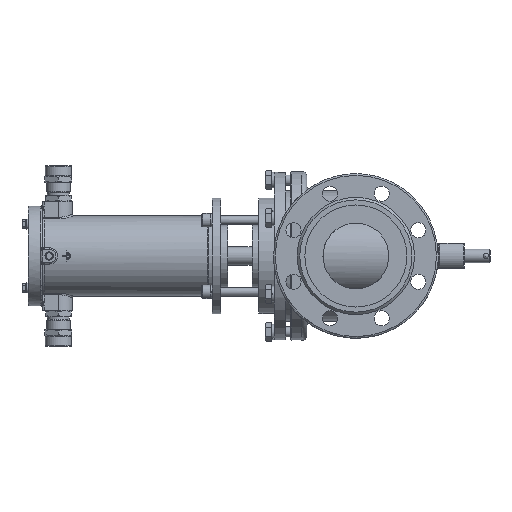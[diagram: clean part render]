
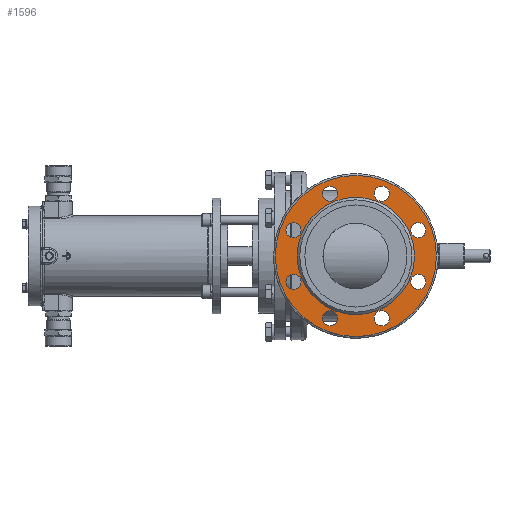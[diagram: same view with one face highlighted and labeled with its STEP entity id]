
A CAD part, left-side view. The second image highlights one B-rep face of the part: STEP entity #1596.
In plain terms, the highlighted planar face has unit normal (-1, 0, 0).
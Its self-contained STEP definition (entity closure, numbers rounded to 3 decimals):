
#1596=ADVANCED_FACE('',(#19556,#19558,#19560,#19562,#19564,#19566,#19568,#19570,
#19572,#19574),#19576,.T.);
#19556=FACE_BOUND('',#19557,.T.);
#19557=EDGE_LOOP('',(#31878));
#19558=FACE_BOUND('',#19559,.T.);
#19559=EDGE_LOOP('',(#31879));
#19560=FACE_BOUND('',#19561,.T.);
#19561=EDGE_LOOP('',(#31880));
#19562=FACE_BOUND('',#19563,.T.);
#19563=EDGE_LOOP('',(#31881));
#19564=FACE_BOUND('',#19565,.T.);
#19565=EDGE_LOOP('',(#31882));
#19566=FACE_BOUND('',#19567,.T.);
#19567=EDGE_LOOP('',(#31883));
#19568=FACE_BOUND('',#19569,.T.);
#19569=EDGE_LOOP('',(#31884));
#19570=FACE_BOUND('',#19571,.T.);
#19571=EDGE_LOOP('',(#31885));
#19572=FACE_BOUND('',#19573,.T.);
#19573=EDGE_LOOP('',(#31886));
#19574=FACE_OUTER_BOUND('',#19575,.T.);
#19575=EDGE_LOOP('',(#31887));
#19576=PLANE('',#19577);
#19577=AXIS2_PLACEMENT_3D('',#19578,#19579,#19580);
#19578=CARTESIAN_POINT('',(-151.,0.,0.));
#19579=DIRECTION('',(-1.,0.,0.));
#19580=DIRECTION('',(0.,1.,0.));
#31878=ORIENTED_EDGE('',*,*,#40691,.T.);
#31879=ORIENTED_EDGE('',*,*,#40689,.T.);
#31880=ORIENTED_EDGE('',*,*,#40687,.T.);
#31881=ORIENTED_EDGE('',*,*,#40685,.T.);
#31882=ORIENTED_EDGE('',*,*,#40683,.T.);
#31883=ORIENTED_EDGE('',*,*,#40681,.T.);
#31884=ORIENTED_EDGE('',*,*,#40679,.T.);
#31885=ORIENTED_EDGE('',*,*,#40677,.T.);
#31886=ORIENTED_EDGE('',*,*,#40954,.F.);
#31887=ORIENTED_EDGE('',*,*,#40955,.T.);
#40677=EDGE_CURVE('',#48530,#48530,#48532,.T.);
#40679=EDGE_CURVE('',#48533,#48533,#48535,.T.);
#40681=EDGE_CURVE('',#48536,#48536,#48538,.T.);
#40683=EDGE_CURVE('',#48539,#48539,#48541,.T.);
#40685=EDGE_CURVE('',#48542,#48542,#48544,.T.);
#40687=EDGE_CURVE('',#48545,#48545,#48547,.T.);
#40689=EDGE_CURVE('',#48548,#48548,#48550,.T.);
#40691=EDGE_CURVE('',#48551,#48551,#48553,.T.);
#40954=EDGE_CURVE('',#49068,#49068,#49069,.T.);
#40955=EDGE_CURVE('',#49070,#49070,#49071,.T.);
#48530=VERTEX_POINT('',#74925);
#48532=CIRCLE('',#74929,9.);
#48533=VERTEX_POINT('',#74933);
#48535=CIRCLE('',#74937,9.);
#48536=VERTEX_POINT('',#74941);
#48538=CIRCLE('',#74945,9.);
#48539=VERTEX_POINT('',#74949);
#48541=CIRCLE('',#74953,9.);
#48542=VERTEX_POINT('',#74957);
#48544=CIRCLE('',#74961,9.);
#48545=VERTEX_POINT('',#74965);
#48547=CIRCLE('',#74969,9.);
#48548=VERTEX_POINT('',#74973);
#48550=CIRCLE('',#74977,9.);
#48551=VERTEX_POINT('',#74981);
#48553=CIRCLE('',#74985,9.);
#49068=VERTEX_POINT('',#76416);
#49069=CIRCLE('',#76417,69.5);
#49070=VERTEX_POINT('',#76421);
#49071=CIRCLE('',#76422,95.5);
#74925=CARTESIAN_POINT('',(-151.,30.615,64.91));
#74929=AXIS2_PLACEMENT_3D('',#74930,#74931,#74932);
#74930=CARTESIAN_POINT('',(-151.,30.615,73.91));
#74931=DIRECTION('',(1.,0.,0.));
#74932=DIRECTION('',(0.,-1.,0.));
#74933=CARTESIAN_POINT('',(-151.,30.615,-82.91));
#74937=AXIS2_PLACEMENT_3D('',#74938,#74939,#74940);
#74938=CARTESIAN_POINT('',(-151.,30.615,-73.91));
#74939=DIRECTION('',(1.,0.,0.));
#74940=DIRECTION('',(0.,-1.,0.));
#74941=CARTESIAN_POINT('',(-151.,73.91,21.615));
#74945=AXIS2_PLACEMENT_3D('',#74946,#74947,#74948);
#74946=CARTESIAN_POINT('',(-151.,73.91,30.615));
#74947=DIRECTION('',(1.,0.,0.));
#74948=DIRECTION('',(0.,-1.,0.));
#74949=CARTESIAN_POINT('',(-151.,-30.615,-82.91));
#74953=AXIS2_PLACEMENT_3D('',#74954,#74955,#74956);
#74954=CARTESIAN_POINT('',(-151.,-30.615,-73.91));
#74955=DIRECTION('',(1.,0.,0.));
#74956=DIRECTION('',(0.,-1.,0.));
#74957=CARTESIAN_POINT('',(-151.,-73.91,21.615));
#74961=AXIS2_PLACEMENT_3D('',#74962,#74963,#74964);
#74962=CARTESIAN_POINT('',(-151.,-73.91,30.615));
#74963=DIRECTION('',(1.,0.,0.));
#74964=DIRECTION('',(0.,-1.,0.));
#74965=CARTESIAN_POINT('',(-151.,-30.615,64.91));
#74969=AXIS2_PLACEMENT_3D('',#74970,#74971,#74972);
#74970=CARTESIAN_POINT('',(-151.,-30.615,73.91));
#74971=DIRECTION('',(1.,0.,0.));
#74972=DIRECTION('',(0.,-1.,0.));
#74973=CARTESIAN_POINT('',(-151.,73.91,-39.615));
#74977=AXIS2_PLACEMENT_3D('',#74978,#74979,#74980);
#74978=CARTESIAN_POINT('',(-151.,73.91,-30.615));
#74979=DIRECTION('',(1.,0.,0.));
#74980=DIRECTION('',(0.,-1.,0.));
#74981=CARTESIAN_POINT('',(-151.,-73.91,-39.615));
#74985=AXIS2_PLACEMENT_3D('',#74986,#74987,#74988);
#74986=CARTESIAN_POINT('',(-151.,-73.91,-30.615));
#74987=DIRECTION('',(1.,0.,0.));
#74988=DIRECTION('',(0.,-1.,0.));
#76416=CARTESIAN_POINT('',(-151.,-69.5,0.));
#76417=AXIS2_PLACEMENT_3D('',#76418,#76419,#76420);
#76418=CARTESIAN_POINT('',(-151.,0.,0.));
#76419=DIRECTION('',(-1.,0.,0.));
#76420=DIRECTION('',(0.,1.,0.));
#76421=CARTESIAN_POINT('',(-151.,-95.5,0.));
#76422=AXIS2_PLACEMENT_3D('',#76423,#76424,#76425);
#76423=CARTESIAN_POINT('',(-151.,0.,0.));
#76424=DIRECTION('',(-1.,0.,0.));
#76425=DIRECTION('',(0.,1.,0.));
